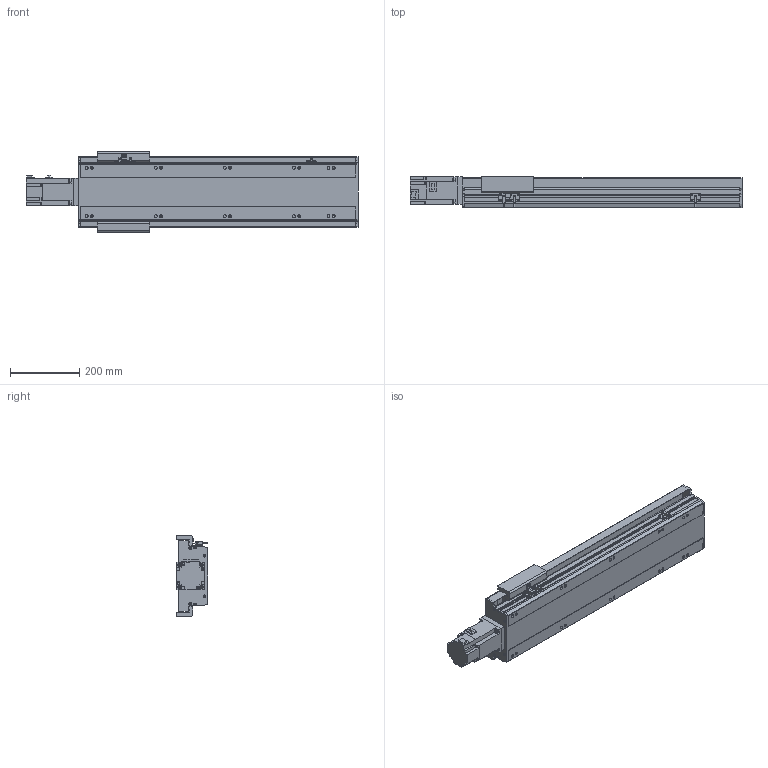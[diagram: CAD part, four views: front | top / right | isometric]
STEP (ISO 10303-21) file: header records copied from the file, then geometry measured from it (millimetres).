
FILE_DESCRIPTION(/* description */ ('STEP AP214'),/* implementation_level */ '2;1');
FILE_NAME(/* name */ 'PSM170-L10-S550-BC-T75-C1-N(0)',/* time_stamp */ '2022-06-13T03:24:23+02:00',/* author */ ('License CC BY-ND 4.0'),/* organization */ ('CADENAS'),/* preprocessor_version */ 'ST-DEVELOPER v18.102',/* originating_system */ 'PARTsolutions',/* authorisation */ ' ');
FILE_SCHEMA (('AUTOMOTIVE_DESIGN {1 0 10303 214 3 1 1}'));
Length unit declared in the file: millimetre
Products named in the file (8): PSM170-L10-S550-BC-T75-C1-N(0); PSM-Sensor; PSM140-S550-792.5; T75-p1; PSM170_body2; PSM170_body3; PSM170-S550_body1; PSM170-L10-S550-BC-T75-C1-N(0)_dummy
Assembly tree (11 placements, depth 2):
  PSM170-L10-S550-BC-T75-C1-N(0)
    PSM-Sensor  x3
    PSM140-S550-792.5  x3
    T75-p1
    PSM170_body2
    PSM170_body3
    PSM170-S550_body1
    PSM170-L10-S550-BC-T75-C1-N(0)_dummy
Bounding box: 961.3 x 92 x 233 mm (x, y, z)
Volume: 5925868.9 mm3; surface area: 1128854.3 mm2
Topology: 10 solids, 10 shells, 1031 faces, 2749 edges, 1790 vertices
Faces by surface type: plane 652, cylinder 305, cone 60, torus 14
Full cylindrical faces by diameter (mm): 2.8 x3, 3.08 x1, 4.134 x4, 4.5 x12, 4.6 x3, 5.7 x2, 6 x9, 6.647 x18, 7 x8, 7.6 x4, 8 x8, 8.5 x10, 10 x4, 14 x10, 45 x1, 70 x1
Entity records: 27025 total; most frequent: CARTESIAN_POINT 4934, DIRECTION 4522, ORIENTED_EDGE 4332, EDGE_CURVE 2166, AXIS2_PLACEMENT_3D 1523, VERTEX_POINT 1514, LINE 1476, VECTOR 1476
